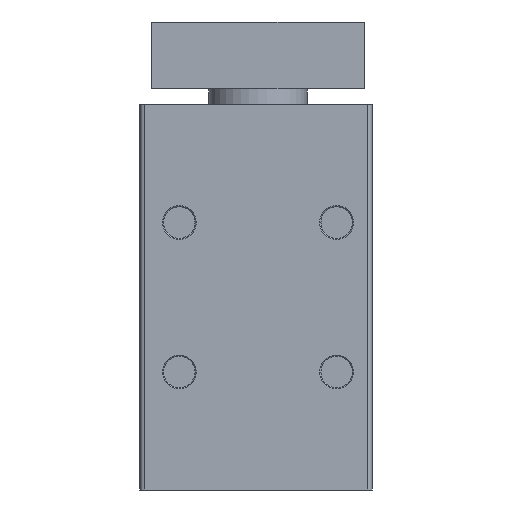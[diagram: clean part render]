
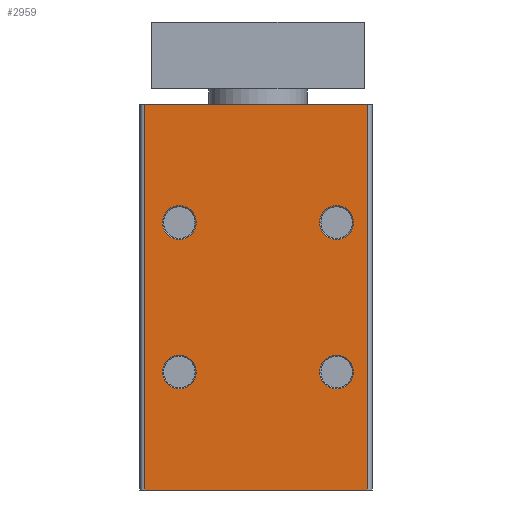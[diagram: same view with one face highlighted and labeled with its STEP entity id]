
A CAD part, front view. The second image highlights one B-rep face of the part: STEP entity #2959.
In plain terms, the highlighted planar face has unit normal (0, -1, 0).
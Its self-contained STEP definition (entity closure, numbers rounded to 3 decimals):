
#1341=CARTESIAN_POINT('',(27.8,-74.0,-102.));
#1342=VERTEX_POINT('',#1341);
#1350=CARTESIAN_POINT('',(-28.8,-74.0,-102.));
#1351=VERTEX_POINT('',#1350);
#1352=CARTESIAN_POINT('',(-28.8,-74.0,-102.));
#1353=DIRECTION('',(1.0,0.0,0.0));
#1354=VECTOR('',#1353,56.6);
#1355=LINE('',#1352,#1354);
#1356=EDGE_CURVE('',#1351,#1342,#1355,.T.);
#1914=CARTESIAN_POINT('',(-28.8,-74.0,-4.));
#1915=VERTEX_POINT('',#1914);
#1923=CARTESIAN_POINT('',(27.8,-74.0,-4.));
#1924=VERTEX_POINT('',#1923);
#1925=CARTESIAN_POINT('',(27.8,-74.0,-4.));
#1926=DIRECTION('',(-1.0,0.0,0.0));
#1927=VECTOR('',#1926,56.6);
#1928=LINE('',#1925,#1927);
#1929=EDGE_CURVE('',#1924,#1915,#1928,.T.);
#2890=CARTESIAN_POINT('',(-15.7,-74.0,-34.0));
#2891=VERTEX_POINT('',#2890);
#2892=CARTESIAN_POINT('',(-20.,-74.0,-34.0));
#2893=DIRECTION('',(0.0,-1.0,0.0));
#2894=DIRECTION('',(-1.0,0.0,0.0));
#2895=AXIS2_PLACEMENT_3D('',#2892,#2893,#2894);
#2896=CIRCLE('',#2895,4.3);
#2897=EDGE_CURVE('',#2891,#2891,#2896,.T.);
#2902=CARTESIAN_POINT('',(-28.8,-74.0,-4.));
#2903=DIRECTION('',(0.0,-1.0,0.0));
#2904=DIRECTION('',(0.0,0.0,-1.0));
#2905=AXIS2_PLACEMENT_3D('',#2902,#2903,#2904);
#2906=PLANE('',#2905);
#2907=ORIENTED_EDGE('',*,*,#1356,.T.);
#2908=CARTESIAN_POINT('',(27.8,-74.0,-4.));
#2909=DIRECTION('',(0.0,0.0,-1.0));
#2910=VECTOR('',#2909,98.);
#2911=LINE('',#2908,#2910);
#2912=EDGE_CURVE('',#1924,#1342,#2911,.T.);
#2913=ORIENTED_EDGE('',*,*,#2912,.F.);
#2914=ORIENTED_EDGE('',*,*,#1929,.T.);
#2915=CARTESIAN_POINT('',(-28.8,-74.0,-4.));
#2916=DIRECTION('',(0.0,0.0,-1.0));
#2917=VECTOR('',#2916,98.);
#2918=LINE('',#2915,#2917);
#2919=EDGE_CURVE('',#1915,#1351,#2918,.T.);
#2920=ORIENTED_EDGE('',*,*,#2919,.T.);
#2921=EDGE_LOOP('',(#2907,#2913,#2914,#2920));
#2922=FACE_OUTER_BOUND('',#2921,.T.);
#2923=CARTESIAN_POINT('',(-15.7,-74.0,-72.));
#2924=VERTEX_POINT('',#2923);
#2925=CARTESIAN_POINT('',(-20.,-74.0,-72.));
#2926=DIRECTION('',(0.0,-1.0,0.0));
#2927=DIRECTION('',(-1.0,0.0,0.0));
#2928=AXIS2_PLACEMENT_3D('',#2925,#2926,#2927);
#2929=CIRCLE('',#2928,4.3);
#2930=EDGE_CURVE('',#2924,#2924,#2929,.T.);
#2931=ORIENTED_EDGE('',*,*,#2930,.F.);
#2932=EDGE_LOOP('',(#2931));
#2933=FACE_BOUND('',#2932,.T.);
#2934=CARTESIAN_POINT('',(24.3,-74.0,-34.0));
#2935=VERTEX_POINT('',#2934);
#2936=CARTESIAN_POINT('',(20.,-74.0,-34.0));
#2937=DIRECTION('',(0.0,-1.0,0.0));
#2938=DIRECTION('',(-1.0,0.0,0.0));
#2939=AXIS2_PLACEMENT_3D('',#2936,#2937,#2938);
#2940=CIRCLE('',#2939,4.3);
#2941=EDGE_CURVE('',#2935,#2935,#2940,.T.);
#2942=ORIENTED_EDGE('',*,*,#2941,.F.);
#2943=EDGE_LOOP('',(#2942));
#2944=FACE_BOUND('',#2943,.T.);
#2945=CARTESIAN_POINT('',(24.3,-74.0,-72.));
#2946=VERTEX_POINT('',#2945);
#2947=CARTESIAN_POINT('',(20.,-74.0,-72.));
#2948=DIRECTION('',(0.0,-1.0,0.0));
#2949=DIRECTION('',(-1.0,0.0,0.0));
#2950=AXIS2_PLACEMENT_3D('',#2947,#2948,#2949);
#2951=CIRCLE('',#2950,4.3);
#2952=EDGE_CURVE('',#2946,#2946,#2951,.T.);
#2953=ORIENTED_EDGE('',*,*,#2952,.F.);
#2954=EDGE_LOOP('',(#2953));
#2955=FACE_BOUND('',#2954,.T.);
#2956=ORIENTED_EDGE('',*,*,#2897,.F.);
#2957=EDGE_LOOP('',(#2956));
#2958=FACE_BOUND('',#2957,.T.);
#2959=ADVANCED_FACE('',(#2922,#2933,#2944,#2955,#2958),#2906,.T.);
